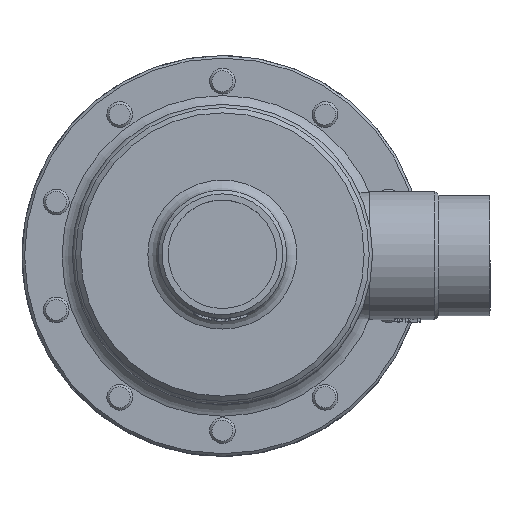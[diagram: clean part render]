
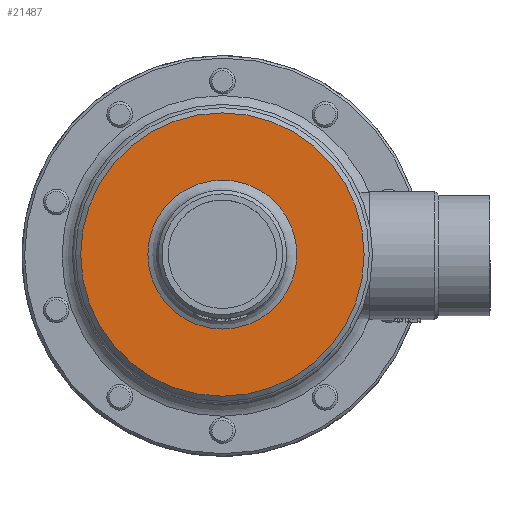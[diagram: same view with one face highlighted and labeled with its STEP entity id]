
A CAD part, top view. The second image highlights one B-rep face of the part: STEP entity #21487.
In plain terms, the highlighted planar face has unit normal (0, 0, 1).
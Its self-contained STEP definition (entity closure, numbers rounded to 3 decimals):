
#1082=FACE_BOUND('',#5106,.T.);
#2405=PLANE('',#23469);
#3634=FACE_OUTER_BOUND('',#5105,.T.);
#5105=EDGE_LOOP('',(#19931));
#5106=EDGE_LOOP('',(#19932));
#8420=CIRCLE('',#22953,29.);
#8660=CIRCLE('',#23468,55.15);
#10426=VERTEX_POINT('',#41746);
#10746=VERTEX_POINT('',#43013);
#13381=EDGE_CURVE('',#10426,#10426,#8420,.T.);
#13837=EDGE_CURVE('',#10746,#10746,#8660,.T.);
#19931=ORIENTED_EDGE('',*,*,#13837,.T.);
#19932=ORIENTED_EDGE('',*,*,#13381,.T.);
#21487=ADVANCED_FACE('',(#3634,#1082),#2405,.T.);
#22953=AXIS2_PLACEMENT_3D('',#41747,#27684,#27685);
#23468=AXIS2_PLACEMENT_3D('',#43014,#28822,#28823);
#23469=AXIS2_PLACEMENT_3D('',#43015,#28824,#28825);
#27684=DIRECTION('center_axis',(0.,0.,
-1.));
#27685=DIRECTION('ref_axis',(1.,0.,0.));
#28822=DIRECTION('center_axis',(0.,0.,
1.));
#28823=DIRECTION('ref_axis',(1.,0.,0.));
#28824=DIRECTION('center_axis',(0.,0.,
1.));
#28825=DIRECTION('ref_axis',(0.,1.,0.));
#41746=CARTESIAN_POINT('',(29.,0.,333.5));
#41747=CARTESIAN_POINT('Origin',(0.,0.,
333.5));
#43013=CARTESIAN_POINT('',(55.15,0.,333.5));
#43014=CARTESIAN_POINT('Origin',(0.,0.,
333.5));
#43015=CARTESIAN_POINT('Origin',(27.575,0.,333.5));
